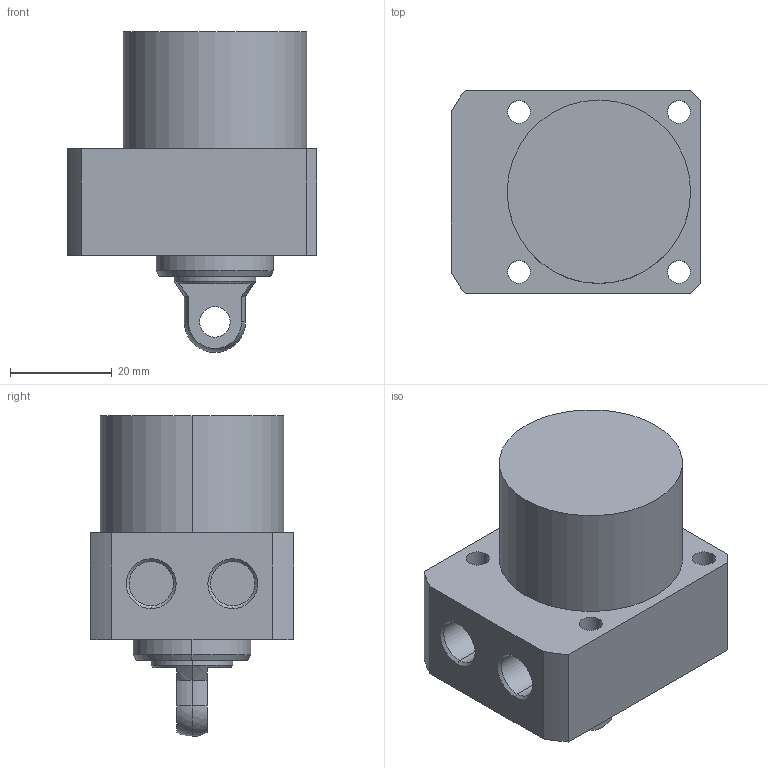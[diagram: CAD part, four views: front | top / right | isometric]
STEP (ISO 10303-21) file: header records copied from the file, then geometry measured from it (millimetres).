
FILE_DESCRIPTION (( 'STEP AP203' ), '1' );
FILE_NAME ('CLLR-036CP-015.STEP', '2019-12-20T00:47:21', ( '' ), ( '' ), 'SwSTEP 2.0', 'SolidWorks 2015', '' );
FILE_SCHEMA (( 'CONFIG_CONTROL_DESIGN' ));
Length unit declared in the file: millimetre
Products named in the file (1): CLLR-036CP-015
Bounding box: 49 x 40 x 63 mm (x, y, z)
Volume: 63956.3 mm3; surface area: 12625.1 mm2
Topology: 1 solids, 1 shells, 57 faces, 135 edges, 87 vertices
Faces by surface type: cylinder 29, plane 18, cone 8, sphere 2
Entity records: 1770 total; most frequent: DIRECTION 319, CARTESIAN_POINT 292, ORIENTED_EDGE 270, EDGE_CURVE 135, AXIS2_PLACEMENT_3D 130, VERTEX_POINT 87, EDGE_LOOP 74, CIRCLE 72
